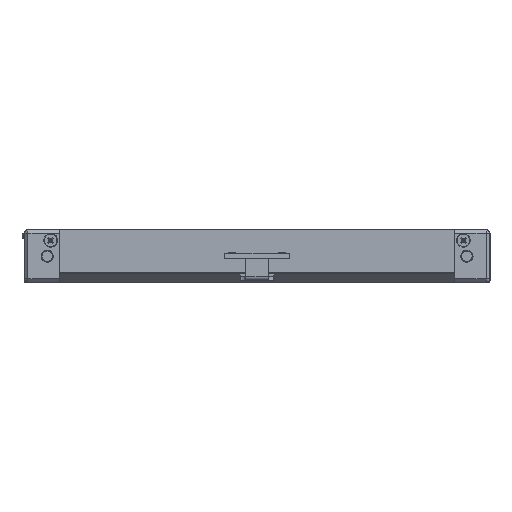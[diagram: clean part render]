
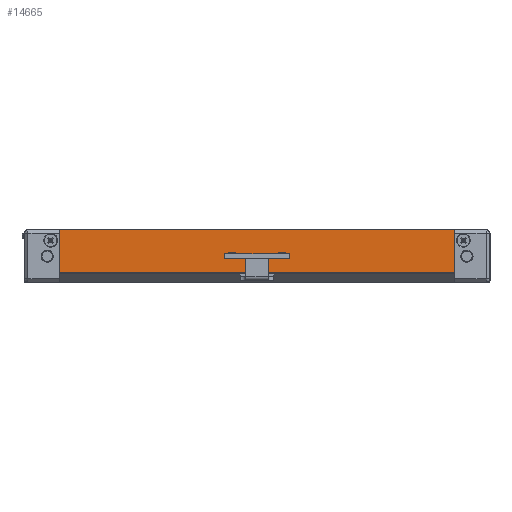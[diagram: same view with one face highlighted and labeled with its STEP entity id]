
A CAD part, top view. The second image highlights one B-rep face of the part: STEP entity #14665.
In plain terms, the highlighted planar face has unit normal (0, 0, 1).
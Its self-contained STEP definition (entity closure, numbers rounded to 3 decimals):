
#3479 = PLANE('',#3480);
#3480 = AXIS2_PLACEMENT_3D('',#3481,#3482,#3483);
#3481 = CARTESIAN_POINT('',(-66.,7.5,-3.5));
#3482 = DIRECTION('',(0.,1.,0.));
#3483 = DIRECTION('',(0.,0.,1.));
#7282 = VERTEX_POINT('',#7283);
#7283 = CARTESIAN_POINT('',(-56.5,7.5,-3.2));
#7303 = EDGE_CURVE('',#7282,#7304,#7306,.T.);
#7304 = VERTEX_POINT('',#7305);
#7305 = CARTESIAN_POINT('',(56.5,7.5,-3.2));
#7306 = SURFACE_CURVE('',#7307,(#7311,#7318),.PCURVE_S1.);
#7307 = LINE('',#7308,#7309);
#7308 = CARTESIAN_POINT('',(-66.,7.5,-3.2));
#7309 = VECTOR('',#7310,1.);
#7310 = DIRECTION('',(1.,0.,0.));
#7311 = PCURVE('',#3479,#7312);
#7312 = DEFINITIONAL_REPRESENTATION('',(#7313),#7317);
#7313 = LINE('',#7314,#7315);
#7314 = CARTESIAN_POINT('',(0.3,0.));
#7315 = VECTOR('',#7316,1.);
#7316 = DIRECTION('',(0.,1.));
#7317 = ( GEOMETRIC_REPRESENTATION_CONTEXT(2) 
PARAMETRIC_REPRESENTATION_CONTEXT() REPRESENTATION_CONTEXT('2D SPACE',''
  ) );
#7318 = PCURVE('',#7319,#7324);
#7319 = PLANE('',#7320);
#7320 = AXIS2_PLACEMENT_3D('',#7321,#7322,#7323);
#7321 = CARTESIAN_POINT('',(-66.,-4.7,-3.2));
#7322 = DIRECTION('',(0.,0.,1.));
#7323 = DIRECTION('',(1.,0.,0.));
#7324 = DEFINITIONAL_REPRESENTATION('',(#7325),#7329);
#7325 = LINE('',#7326,#7327);
#7326 = CARTESIAN_POINT('',(0.,12.2));
#7327 = VECTOR('',#7328,1.);
#7328 = DIRECTION('',(1.,0.));
#7329 = ( GEOMETRIC_REPRESENTATION_CONTEXT(2) 
PARAMETRIC_REPRESENTATION_CONTEXT() REPRESENTATION_CONTEXT('2D SPACE',''
  ) );
#14602 = PLANE('',#14603);
#14603 = AXIS2_PLACEMENT_3D('',#14604,#14605,#14606);
#14604 = CARTESIAN_POINT('',(-56.5,-7.5,-11.2));
#14605 = DIRECTION('',(1.,0.,0.));
#14606 = DIRECTION('',(0.,0.,1.));
#14665 = ADVANCED_FACE('',(#14666),#7319,.T.);
#14666 = FACE_BOUND('',#14667,.T.);
#14667 = EDGE_LOOP('',(#14668,#14669,#14692,#14719));
#14668 = ORIENTED_EDGE('',*,*,#7303,.F.);
#14669 = ORIENTED_EDGE('',*,*,#14670,.T.);
#14670 = EDGE_CURVE('',#7282,#14671,#14673,.T.);
#14671 = VERTEX_POINT('',#14672);
#14672 = CARTESIAN_POINT('',(-56.5,-4.7,-3.2));
#14673 = SURFACE_CURVE('',#14674,(#14678,#14685),.PCURVE_S1.);
#14674 = LINE('',#14675,#14676);
#14675 = CARTESIAN_POINT('',(-56.5,10.,-3.2));
#14676 = VECTOR('',#14677,1.);
#14677 = DIRECTION('',(0.,-1.,0.));
#14678 = PCURVE('',#7319,#14679);
#14679 = DEFINITIONAL_REPRESENTATION('',(#14680),#14684);
#14680 = LINE('',#14681,#14682);
#14681 = CARTESIAN_POINT('',(9.5,14.7));
#14682 = VECTOR('',#14683,1.);
#14683 = DIRECTION('',(0.,-1.));
#14684 = ( GEOMETRIC_REPRESENTATION_CONTEXT(2) 
PARAMETRIC_REPRESENTATION_CONTEXT() REPRESENTATION_CONTEXT('2D SPACE',''
  ) );
#14685 = PCURVE('',#14602,#14686);
#14686 = DEFINITIONAL_REPRESENTATION('',(#14687),#14691);
#14687 = LINE('',#14688,#14689);
#14688 = CARTESIAN_POINT('',(8.,-17.5));
#14689 = VECTOR('',#14690,1.);
#14690 = DIRECTION('',(0.,1.));
#14691 = ( GEOMETRIC_REPRESENTATION_CONTEXT(2) 
PARAMETRIC_REPRESENTATION_CONTEXT() REPRESENTATION_CONTEXT('2D SPACE',''
  ) );
#14692 = ORIENTED_EDGE('',*,*,#14693,.T.);
#14693 = EDGE_CURVE('',#14671,#14694,#14696,.T.);
#14694 = VERTEX_POINT('',#14695);
#14695 = CARTESIAN_POINT('',(56.5,-4.7,-3.2));
#14696 = SURFACE_CURVE('',#14697,(#14701,#14708),.PCURVE_S1.);
#14697 = LINE('',#14698,#14699);
#14698 = CARTESIAN_POINT('',(-66.,-4.7,-3.2));
#14699 = VECTOR('',#14700,1.);
#14700 = DIRECTION('',(1.,0.,0.));
#14701 = PCURVE('',#7319,#14702);
#14702 = DEFINITIONAL_REPRESENTATION('',(#14703),#14707);
#14703 = LINE('',#14704,#14705);
#14704 = CARTESIAN_POINT('',(0.,0.));
#14705 = VECTOR('',#14706,1.);
#14706 = DIRECTION('',(1.,0.));
#14707 = ( GEOMETRIC_REPRESENTATION_CONTEXT(2) 
PARAMETRIC_REPRESENTATION_CONTEXT() REPRESENTATION_CONTEXT('2D SPACE',''
  ) );
#14708 = PCURVE('',#14709,#14714);
#14709 = CYLINDRICAL_SURFACE('',#14710,0.3);
#14710 = AXIS2_PLACEMENT_3D('',#14711,#14712,#14713);
#14711 = CARTESIAN_POINT('',(-66.,-4.7,-3.5));
#14712 = DIRECTION('',(1.,0.,0.));
#14713 = DIRECTION('',(0.,0.,1.));
#14714 = DEFINITIONAL_REPRESENTATION('',(#14715),#14718);
#14715 = B_SPLINE_CURVE_WITH_KNOTS('',1,(#14716,#14717),.UNSPECIFIED.,
  .F.,.F.,(2,2),(0.,132.),.PIECEWISE_BEZIER_KNOTS.);
#14716 = CARTESIAN_POINT('',(0.,0.));
#14717 = CARTESIAN_POINT('',(0.,132.));
#14718 = ( GEOMETRIC_REPRESENTATION_CONTEXT(2) 
PARAMETRIC_REPRESENTATION_CONTEXT() REPRESENTATION_CONTEXT('2D SPACE',''
  ) );
#14719 = ORIENTED_EDGE('',*,*,#14720,.F.);
#14720 = EDGE_CURVE('',#7304,#14694,#14721,.T.);
#14721 = SURFACE_CURVE('',#14722,(#14726,#14733),.PCURVE_S1.);
#14722 = LINE('',#14723,#14724);
#14723 = CARTESIAN_POINT('',(56.5,10.,-3.2));
#14724 = VECTOR('',#14725,1.);
#14725 = DIRECTION('',(0.,-1.,-0.));
#14726 = PCURVE('',#7319,#14727);
#14727 = DEFINITIONAL_REPRESENTATION('',(#14728),#14732);
#14728 = LINE('',#14729,#14730);
#14729 = CARTESIAN_POINT('',(122.5,14.7));
#14730 = VECTOR('',#14731,1.);
#14731 = DIRECTION('',(0.,-1.));
#14732 = ( GEOMETRIC_REPRESENTATION_CONTEXT(2) 
PARAMETRIC_REPRESENTATION_CONTEXT() REPRESENTATION_CONTEXT('2D SPACE',''
  ) );
#14733 = PCURVE('',#14734,#14739);
#14734 = PLANE('',#14735);
#14735 = AXIS2_PLACEMENT_3D('',#14736,#14737,#14738);
#14736 = CARTESIAN_POINT('',(56.5,-7.5,-11.2));
#14737 = DIRECTION('',(-1.,-0.,-0.));
#14738 = DIRECTION('',(0.,0.,-1.));
#14739 = DEFINITIONAL_REPRESENTATION('',(#14740),#14744);
#14740 = LINE('',#14741,#14742);
#14741 = CARTESIAN_POINT('',(-8.,-17.5));
#14742 = VECTOR('',#14743,1.);
#14743 = DIRECTION('',(0.,1.));
#14744 = ( GEOMETRIC_REPRESENTATION_CONTEXT(2) 
PARAMETRIC_REPRESENTATION_CONTEXT() REPRESENTATION_CONTEXT('2D SPACE',''
  ) );
